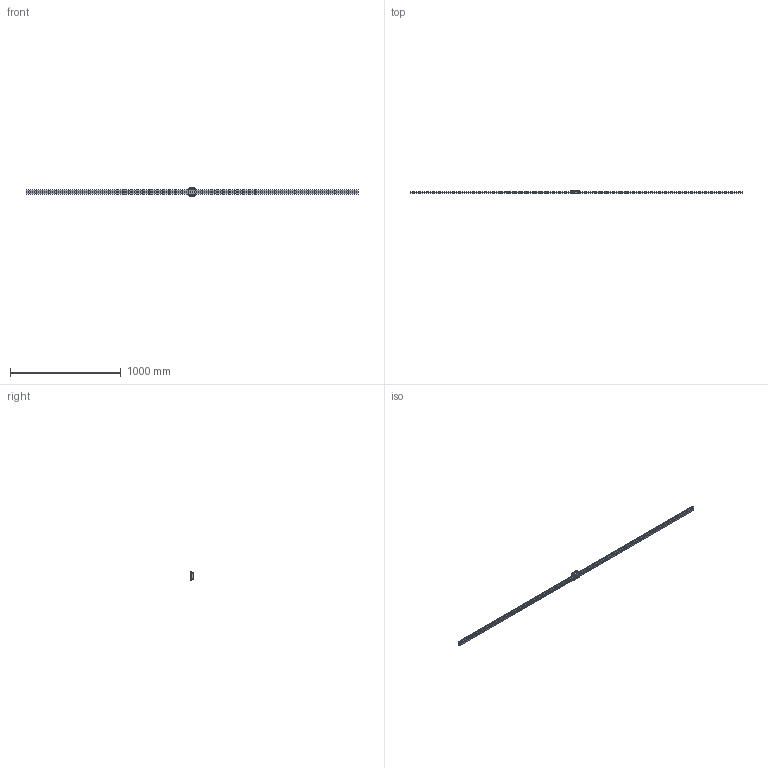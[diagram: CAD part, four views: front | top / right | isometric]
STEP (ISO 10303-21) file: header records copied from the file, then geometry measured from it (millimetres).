
FILE_DESCRIPTION(/* description */ ('STEP AP214'),/* implementation_level */ '2;1');
FILE_NAME(/* name */ 'HRW27CA1SS-3000L_G30_0_B-M6F_1463-6_0_0_0_1',/* time_stamp */ '2023-09-26T15:04:54+02:00',/* author */ ('License CC BY-ND 4.0'),/* organization */ ('CADENAS'),/* preprocessor_version */ 'ST-DEVELOPER v19.3',/* originating_system */ 'PARTsolutions',/* authorisation */ ' ');
FILE_SCHEMA (('AUTOMOTIVE_DESIGN {1 0 10303 214 3 1 1}'));
Length unit declared in the file: millimetre
Products named in the file (4): HRW27CA1SS-3000L_G30_0_B-M6F_1463-6_0_0_0_1; HRW-B-M6F_grease_nipple_joint; HRW27CASSB-M6F1 Slide17-60; HRW27CA300030 Track
Assembly tree (3 placements, depth 2):
  HRW27CA1SS-3000L_G30_0_B-M6F_1463-6_0_0_0_1
    HRW-B-M6F_grease_nipple_joint
    HRW27CASSB-M6F1 Slide17-60
    HRW27CA300030 Track
Bounding box: 3000 x 27 x 80 mm (x, y, z)
Volume: 1752850.3 mm3; surface area: 395999.7 mm2
Topology: 3 solids, 3 shells, 547 faces, 1260 edges, 829 vertices
Faces by surface type: plane 271, cylinder 240, cone 25, torus 8, sphere 3
Full cylindrical faces by diameter (mm): 3 x6, 4.5 x100, 4.917 x4, 5.3 x4, 6 x1, 7.5 x100, 8 x1, 9.5 x2
Entity records: 14911 total; most frequent: DIRECTION 2594, CARTESIAN_POINT 2526, ORIENTED_EDGE 2008, FACE_BOUND 1119, EDGE_LOOP 1117, AXIS2_PLACEMENT_3D 1075, EDGE_CURVE 1004, VERTEX_POINT 823
